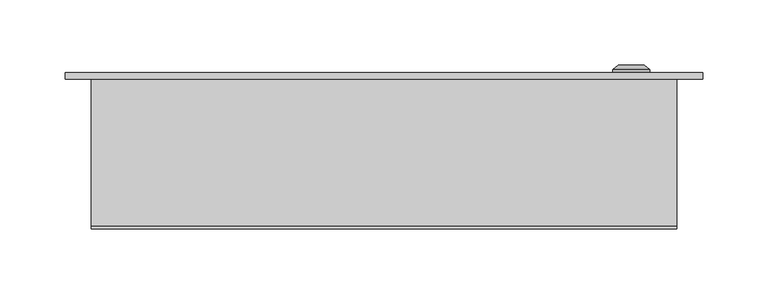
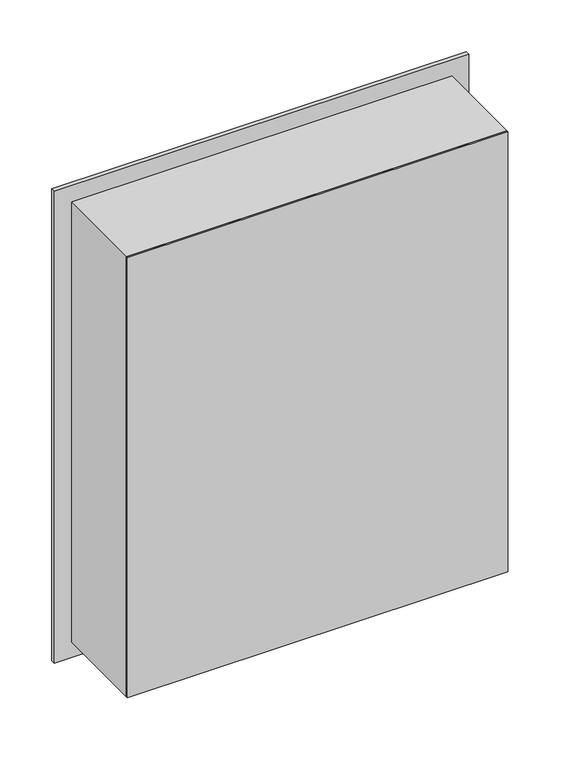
"""IFC4 building model written with IfcOpenShell, lengths in millimetres: proxy geometry, ЩРВ_54 : ЩРВ-54."""

from ifc_helpers import new_model, si_unit, frame, origin, origin_with_axes, place, context, project, spatial, polyline, circle_curve, outline, extrude, source, transform, mapped, element, save
from ifc_brep_helpers import plane_surface, cylinder_surface, revolved_surface, advanced_brep


def electrical_equipment_3a378906(model_context):
    return source(origin(), model_context, "Body", "SolidModel", [
        extrude(outline(polyline([(570.0, -245.0033905), (-20.0, -245.0033905), (-20.0, 244.9966095), (570.0, 244.9966095), (570.0, -245.0033905)]), holes=[polyline([(545.0, -220.0), (545.0, 220.0), (5.0, 220.0), (5.0, -220.0), (545.0, -220.0)])]), frame((0.0, 115.0, 0.0), z_axis=(0.0, 1.0, 0.0), x_axis=(0.0, 0.0, 1.0)), (0.0, 0.0, 1.0), 5.0),
        advanced_brep(
        [(175.669873, 120.0, 275.0), (204.330127, 120.0, 275.0), (190.0, 120.0, 275.0), (175.669873, 122.366592, 275.0), (204.330127, 122.366592, 275.0), (180.0, 126.0, 275.0), (200.0, 126.0, 275.0), (188.1080471, 126.0, 275.0), (191.8919529, 126.0, 275.0), (188.1080471, 124.9822294, 275.0), (191.8919529, 124.9822294, 275.0), (190.0, 124.9822294, 275.0)],
        [
            (0, 1, circle_curve(frame((190.0, 120.0, 275.0), z_axis=(0.0, -1.0, 0.0), x_axis=(1.0, 0.0, 0.0)), 14.330127)),
            (1, 2),
            (2, 0),
            (1, 0, circle_curve(frame((190.0, 120.0, 275.0), z_axis=(0.0, -1.0, 0.0), x_axis=(1.0, 0.0, 0.0)), 14.330127)),
            (3, 4, circle_curve(frame((190.0, 122.366592, 275.0), z_axis=(0.0, -1.0, 0.0), x_axis=(1.0, 0.0, 0.0)), 14.330127)),
            (4, 1),
            (0, 3),
            (4, 3, circle_curve(frame((190.0, 122.366592, 275.0), z_axis=(0.0, -1.0, 0.0), x_axis=(1.0, 0.0, 0.0)), 14.330127)),
            (5, 6, circle_curve(frame((190.0, 126.0, 275.0), z_axis=(0.0, -1.0, 0.0), x_axis=(1.0, 0.0, 0.0)), 10.0)),
            (6, 4),
            (3, 5),
            (6, 5, circle_curve(frame((190.0, 126.0, 275.0), z_axis=(0.0, -1.0, 0.0), x_axis=(1.0, 0.0, 0.0)), 10.0)),
            (7, 8, circle_curve(frame((190.0, 126.0, 275.0), z_axis=(0.0, -1.0, 0.0), x_axis=(1.0, 0.0, 0.0)), 1.8919529)),
            (8, 6),
            (5, 7),
            (8, 7, circle_curve(frame((190.0, 126.0, 275.0), z_axis=(0.0, -1.0, 0.0), x_axis=(1.0, 0.0, 0.0)), 1.8919529)),
            (9, 10, circle_curve(frame((190.0, 124.9822294, 275.0), z_axis=(0.0, -1.0, 0.0), x_axis=(1.0, 0.0, 0.0)), 1.8919529)),
            (10, 8),
            (7, 9),
            (10, 9, circle_curve(frame((190.0, 124.9822294, 275.0), z_axis=(0.0, -1.0, 0.0), x_axis=(1.0, 0.0, 0.0)), 1.8919529)),
            (11, 10),
            (9, 11),
        ],
        [
            plane_surface(frame((190.0, 120.0, 275.0), z_axis=(0.0, -1.0, 0.0), x_axis=(1.0, 0.0, 0.0))),
            cylinder_surface(frame((190.0, 133.1348851, 275.0), z_axis=(0.0, 1.0, 0.0), x_axis=(1.0, 0.0, 0.0)), 14.330127),
            revolved_surface(polyline([(204.330127, 122.366592, 275.0), (200.0, 126.0, 275.0)]), (190.0, 133.1348851, 275.0), (0.0, 1.0, 0.0)),
            plane_surface(frame((190.0, 126.0, 275.0), z_axis=(0.0, 1.0, 0.0), x_axis=(1.0, 0.0, 0.0))),
            revolved_surface(polyline([(191.8919529, 126.0, 275.0), (191.8919529, 124.9822294, 275.0)]), (190.0, 133.1348851, 275.0), (0.0, 1.0, 0.0)),
            plane_surface(frame((190.0, 124.9822294, 275.0), z_axis=(0.0, 1.0, 0.0), x_axis=(1.0, 0.0, 0.0))),
        ],
        [
            (0, [[1, 2, 3]]),
            (0, [[4, -3, -2]]),
            (1, [[5, 6, -1, 7]]),
            (1, [[8, -7, -4, -6]]),
            (2, [[9, 10, -5, 11]]),
            (2, [[12, -11, -8, -10]]),
            (3, [[13, 14, -9, 15]]),
            (3, [[16, -15, -12, -14]]),
            (4, [[17, 18, -13, 19]]),
            (4, [[20, -19, -16, -18]]),
            (5, [[21, -17, 22]]),
            (5, [[-22, -20, -21]]),
        ],
    ),
        extrude(outline(polyline([(219.0, 115.0), (-219.0, 115.0), (-219.0, 120.0), (219.0, 120.0), (219.0, 115.0)])), frame((0.0, 0.0, 6.0), z_axis=(0.0, 0.0, 1.0), x_axis=(1.0, 0.0, 0.0)), (0.0, 0.0, 1.0), 538.0),
        extrude(outline(polyline([(550.0, -225.0033905), (0.0, -225.0033905), (0.0, 224.9966095), (550.0, 224.9966095), (550.0, -225.0033905)]), holes=[polyline([(545.0, -220.0), (545.0, 220.0), (5.0, 220.0), (5.0, -220.0), (545.0, -220.0)])]), frame((0.0, 2.0, 0.0), z_axis=(0.0, 1.0, 0.0), x_axis=(0.0, 0.0, 1.0)), (0.0, 0.0, 1.0), 113.0),
        extrude(outline(polyline([(225.0, 0.0), (-225.0, 0.0), (-225.0, 2.0), (225.0, 2.0), (225.0, 0.0)])), origin_with_axes(), (0.0, 0.0, 1.0), 550.0),
    ])


if __name__ == "__main__":
    model = new_model("IFC4")
    model_context = context("Model", 3, world=origin())
    ifc_project = project(units=[si_unit("LENGTHUNIT", "METRE", prefix="MILLI")], contexts=[model_context])
    site = spatial("IfcSite", under=ifc_project)
    building = spatial("IfcBuilding", under=site)
    placement = place(None, origin())
    electrical_equipment_shape = electrical_equipment_3a378906(model_context)
    element("IfcBuildingElementProxy", 1, Name="ЩРВ_54 : ЩРВ-54", ObjectType="ЩРВ_54 : ЩРВ-54", at=placement, inside=building, context=model_context, shape_type="MappedRepresentation", body=[
        mapped(electrical_equipment_shape, transform((0.0, 0.0, 0.0), x_axis=(1.0, 0.0, 0.0), y_axis=(0.0, 1.0, 0.0), z_axis=(0.0, 0.0, 1.0))),
    ])
    save(model, "model.ifc")
